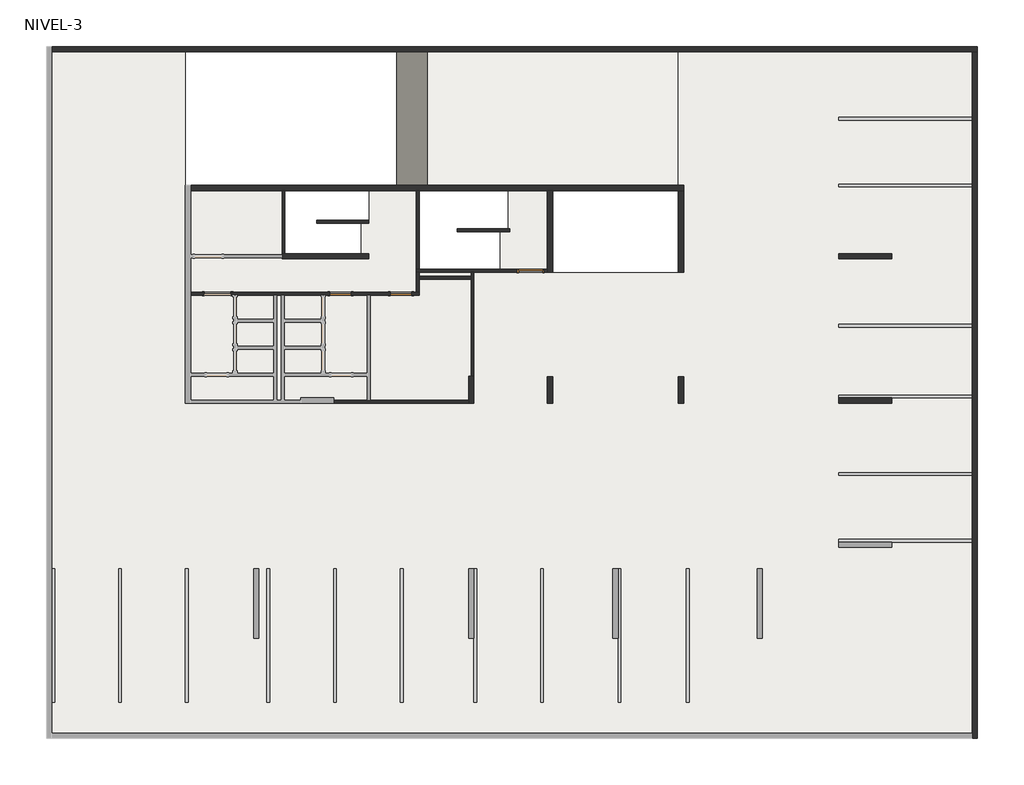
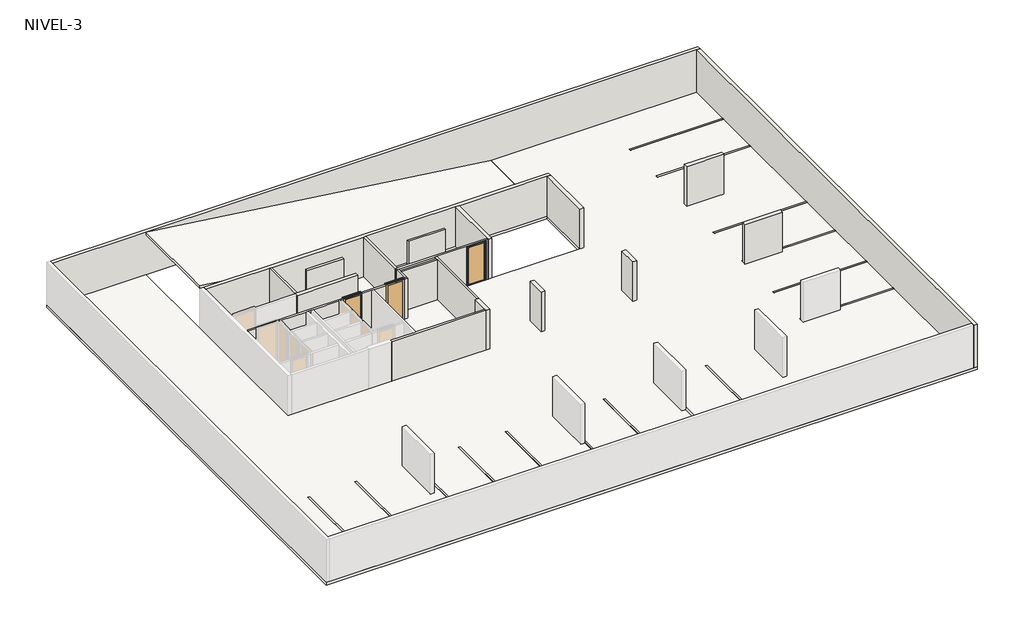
# One storey, part 2 of 2: 21 walls, 16 proxies, 3 doors, 2 slabs.
"""IFC4 building model written with IfcOpenShell, lengths in millimetres."""

from ifc_helpers import new_model, si_unit, frame, origin, place, context, project, spatial, polyline, outline, extrude, faceted_brep, transform, mapped, element, save
from components import m_plaza_de_aparcamiento_500x_240_cm_90_grados_ee1d180e, m_plaza_de_aparcamiento_500x_240_cm_90_grados_d35e9f12, door_90f4172a, m_single_flush_810x_224_a3dcca69

model = new_model("IFC4")

# Units and contexts
model_context = context("Model", 3, world=origin())
ifc_project = project(units=[si_unit("LENGTHUNIT", "METRE", prefix="MILLI")], contexts=[model_context])

# Site, building, storey
site = spatial("IfcSite", under=ifc_project)
building = spatial("IfcBuilding", under=site)
storey = spatial("IfcBuildingStorey", under=building, Name="NIVEL-3", Elevation=-9300.0)

# Proxies
placement = place(None, origin())
m_plaza_de_aparcamiento_500x_240_cm_90_grados_shape = m_plaza_de_aparcamiento_500x_240_cm_90_grados_ee1d180e(model_context)
element("IfcBuildingElementProxy", 1, Name="M_Plaza de aparcamiento : 500x 240 cm - 90 grados", ObjectType="M_Plaza de aparcamiento : 500x 240 cm - 90 grados", at=placement, inside=storey, context=model_context, shape_type="MappedRepresentation", body=[
    mapped(m_plaza_de_aparcamiento_500x_240_cm_90_grados_shape, transform((-12432.7934748, -1166.0860759, -9300.0), x_axis=(1.0, 0.0, 0.0), y_axis=(0.0, 1.0, 0.0), z_axis=(0.0, 0.0, 1.0))),
])
element("IfcBuildingElementProxy", 2, Name="M_Plaza de aparcamiento : 500x 240 cm - 90 grados", ObjectType="M_Plaza de aparcamiento : 500x 240 cm - 90 grados", at=placement, inside=storey, context=model_context, shape_type="MappedRepresentation", body=[
    mapped(m_plaza_de_aparcamiento_500x_240_cm_90_grados_shape, transform((-15183.5934748, -1166.0860759, -9300.0), x_axis=(1.0, 0.0, 0.0), y_axis=(0.0, 1.0, 0.0), z_axis=(0.0, 0.0, 1.0))),
])
element("IfcBuildingElementProxy", 3, Name="M_Plaza de aparcamiento : 500x 240 cm - 90 grados", ObjectType="M_Plaza de aparcamiento : 500x 240 cm - 90 grados", at=placement, inside=storey, context=model_context, shape_type="MappedRepresentation", body=[
    mapped(m_plaza_de_aparcamiento_500x_240_cm_90_grados_shape, transform((-17683.5934748, -1166.0860759, -9300.0), x_axis=(1.0, 0.0, 0.0), y_axis=(0.0, 1.0, 0.0), z_axis=(0.0, 0.0, 1.0))),
])
element("IfcBuildingElementProxy", 4, Name="M_Plaza de aparcamiento : 500x 240 cm - 90 grados", ObjectType="M_Plaza de aparcamiento : 500x 240 cm - 90 grados", at=placement, inside=storey, context=model_context, shape_type="MappedRepresentation", body=[
    mapped(m_plaza_de_aparcamiento_500x_240_cm_90_grados_shape, transform((-20183.5934748, -1166.0860759, -9300.0), x_axis=(1.0, 0.0, 0.0), y_axis=(0.0, 1.0, 0.0), z_axis=(0.0, 0.0, 1.0))),
])
element("IfcBuildingElementProxy", 5, Name="M_Plaza de aparcamiento : 500x 240 cm - 90 grados", ObjectType="M_Plaza de aparcamiento : 500x 240 cm - 90 grados", at=placement, inside=storey, context=model_context, shape_type="MappedRepresentation", body=[
    mapped(m_plaza_de_aparcamiento_500x_240_cm_90_grados_shape, transform((-23233.5934748, -1166.0860759, -9300.0), x_axis=(1.0, 0.0, 0.0), y_axis=(0.0, 1.0, 0.0), z_axis=(0.0, 0.0, 1.0))),
])
element("IfcBuildingElementProxy", 6, Name="M_Plaza de aparcamiento : 500x 240 cm - 90 grados", ObjectType="M_Plaza de aparcamiento : 500x 240 cm - 90 grados", at=placement, inside=storey, context=model_context, shape_type="MappedRepresentation", body=[
    mapped(m_plaza_de_aparcamiento_500x_240_cm_90_grados_shape, transform((-25733.5934748, -1166.0860759, -9300.0), x_axis=(1.0, 0.0, 0.0), y_axis=(0.0, 1.0, 0.0), z_axis=(0.0, 0.0, 1.0))),
])
element("IfcBuildingElementProxy", 7, Name="M_Plaza de aparcamiento : 500x 240 cm - 90 grados", ObjectType="M_Plaza de aparcamiento : 500x 240 cm - 90 grados", at=placement, inside=storey, context=model_context, shape_type="MappedRepresentation", body=[
    mapped(m_plaza_de_aparcamiento_500x_240_cm_90_grados_shape, transform((-28233.5934748, -1166.0860759, -9300.0), x_axis=(1.0, 0.0, 0.0), y_axis=(0.0, 1.0, 0.0), z_axis=(0.0, 0.0, 1.0))),
])
element("IfcBuildingElementProxy", 8, Name="M_Plaza de aparcamiento : 500x 240 cm - 90 grados", ObjectType="M_Plaza de aparcamiento : 500x 240 cm - 90 grados", at=placement, inside=storey, context=model_context, shape_type="MappedRepresentation", body=[
    mapped(m_plaza_de_aparcamiento_500x_240_cm_90_grados_shape, transform((-9933.587274, -1166.0860759, -9300.0), x_axis=(1.0, 0.0, 0.0), y_axis=(0.0, 1.0, 0.0), z_axis=(0.0, 0.0, 1.0))),
])
element("IfcBuildingElementProxy", 9, Name="M_Plaza de aparcamiento : 500x 240 cm - 90 grados", ObjectType="M_Plaza de aparcamiento : 500x 240 cm - 90 grados", at=placement, inside=storey, context=model_context, shape_type="MappedRepresentation", body=[
    mapped(m_plaza_de_aparcamiento_500x_240_cm_90_grados_shape, transform((-7032.7934748, -1166.0860759, -9300.0), x_axis=(1.0, 0.0, 0.0), y_axis=(0.0, 1.0, 0.0), z_axis=(0.0, 0.0, 1.0))),
])
element("IfcBuildingElementProxy", 10, Name="M_Plaza de aparcamiento : 500x 240 cm - 90 grados", ObjectType="M_Plaza de aparcamiento : 500x 240 cm - 90 grados", at=placement, inside=storey, context=model_context, shape_type="MappedRepresentation", body=[
    mapped(m_plaza_de_aparcamiento_500x_240_cm_90_grados_shape, transform((-4481.9934748, -1166.0860759, -9300.0), x_axis=(1.0, 0.0, 0.0), y_axis=(0.0, 1.0, 0.0), z_axis=(0.0, 0.0, 1.0))),
])
m_plaza_de_aparcamiento_500x_240_cm_90_grados_2_shape = m_plaza_de_aparcamiento_500x_240_cm_90_grados_d35e9f12(model_context)
element("IfcBuildingElementProxy", 11, Name="M_Plaza de aparcamiento : 500x 240 cm - 90 grados", ObjectType="M_Plaza de aparcamiento : 500x 240 cm - 90 grados", at=placement, inside=storey, context=model_context, shape_type="MappedRepresentation", body=[
    mapped(m_plaza_de_aparcamiento_500x_240_cm_90_grados_2_shape, transform((6166.4065252, 13184.7139241, -9300.0), x_axis=(0.0, 1.0, 0.0), y_axis=(-1.0, 0.0, 0.0), z_axis=(0.0, 0.0, 1.0))),
])
element("IfcBuildingElementProxy", 12, Name="M_Plaza de aparcamiento : 500x 240 cm - 90 grados", ObjectType="M_Plaza de aparcamiento : 500x 240 cm - 90 grados", at=placement, inside=storey, context=model_context, shape_type="MappedRepresentation", body=[
    mapped(m_plaza_de_aparcamiento_500x_240_cm_90_grados_2_shape, transform((6166.4065252, 15684.7139241, -9300.0), x_axis=(0.0, 1.0, 0.0), y_axis=(-1.0, 0.0, 0.0), z_axis=(0.0, 0.0, 1.0))),
])
element("IfcBuildingElementProxy", 13, Name="M_Plaza de aparcamiento : 500x 240 cm - 90 grados", ObjectType="M_Plaza de aparcamiento : 500x 240 cm - 90 grados", at=placement, inside=storey, context=model_context, shape_type="MappedRepresentation", body=[
    mapped(m_plaza_de_aparcamiento_500x_240_cm_90_grados_2_shape, transform((6166.4065252, 7933.9139241, -9300.0), x_axis=(0.0, 1.0, 0.0), y_axis=(-1.0, 0.0, 0.0), z_axis=(0.0, 0.0, 1.0))),
])
element("IfcBuildingElementProxy", 14, Name="M_Plaza de aparcamiento : 500x 240 cm - 90 grados", ObjectType="M_Plaza de aparcamiento : 500x 240 cm - 90 grados", at=placement, inside=storey, context=model_context, shape_type="MappedRepresentation", body=[
    mapped(m_plaza_de_aparcamiento_500x_240_cm_90_grados_2_shape, transform((6166.4065252, 5284.7139241, -9300.0), x_axis=(0.0, 1.0, 0.0), y_axis=(-1.0, 0.0, 0.0), z_axis=(0.0, 0.0, 1.0))),
])
element("IfcBuildingElementProxy", 15, Name="M_Plaza de aparcamiento : 500x 240 cm - 90 grados", ObjectType="M_Plaza de aparcamiento : 500x 240 cm - 90 grados", at=placement, inside=storey, context=model_context, shape_type="MappedRepresentation", body=[
    mapped(m_plaza_de_aparcamiento_500x_240_cm_90_grados_2_shape, transform((6166.4065252, 2384.7139241, -9300.0), x_axis=(0.0, 1.0, 0.0), y_axis=(-1.0, 0.0, 0.0), z_axis=(0.0, 0.0, 1.0))),
])
element("IfcBuildingElementProxy", 16, Name="M_Plaza de aparcamiento : 500x 240 cm - 90 grados", ObjectType="M_Plaza de aparcamiento : 500x 240 cm - 90 grados", at=placement, inside=storey, context=model_context, shape_type="MappedRepresentation", body=[
    mapped(m_plaza_de_aparcamiento_500x_240_cm_90_grados_2_shape, transform((6166.4065252, -115.2860759, -9300.0), x_axis=(0.0, 1.0, 0.0), y_axis=(-1.0, 0.0, 0.0), z_axis=(0.0, 0.0, 1.0))),
])

# Doors
door_shape = door_90f4172a(model_context)
element("IfcDoor", 17, ObjectType="PUERTA SEGURIDAD SIMPLE : P600_A(90*220) RF120", at=placement, inside=storey, context=model_context, shape_type="MappedRepresentation", body=[
    mapped(door_shape, transform((-10358.5934748, 9988.9139241, -9300.0), x_axis=(1.0, 0.0, 0.0), y_axis=(0.0, 1.0, 0.0), z_axis=(0.0, 0.0, 1.0))),
])
m_single_flush_810x_224_shape = m_single_flush_810x_224_a3dcca69(model_context)
element("IfcDoor", 18, ObjectType="M_Single-Flush : 810x 224", at=placement, inside=storey, context=model_context, shape_type="MappedRepresentation", body=[
    mapped(m_single_flush_810x_224_shape, transform((-17479.3934748, 9128.9139241, -9300.0), x_axis=(-1.0, 0.0, 0.0), y_axis=(0.0, -1.0, 0.0), z_axis=(0.0, 0.0, 1.0))),
])
element("IfcDoor", 19, ObjectType="M_Single-Flush : 810x 224", at=placement, inside=storey, context=model_context, shape_type="MappedRepresentation", body=[
    mapped(m_single_flush_810x_224_shape, transform((-15209.3934748, 9128.9139241, -9300.0), x_axis=(-1.0, 0.0, 0.0), y_axis=(0.0, -1.0, 0.0), z_axis=(0.0, 0.0, 1.0))),
])

# Slabs
element("IfcSlab", 20, ObjectType="LOSA-150mm", at=placement, inside=storey, context=model_context, shape_type="SweptSolid", body=[
    extrude(outline(polyline([(-28484.3934748, 18384.7139241), (-23284.3934748, 18384.7139241), (-23284.3934748, 13184.7139241), (-4833.5934748, 13184.7139241), (-4833.5934748, 18384.7139241), (6366.4065252, 18384.7139241), (6366.4065252, -7516.0860759), (-28484.3934748, -7516.0860759), (-28484.3934748, 18384.7139241)]), holes=[polyline([(-19558.5934748, 12984.7139241), (-19558.5934748, 10633.9139241), (-16716.3934748, 10633.9139241), (-16716.3934748, 11766.6139241), (-16415.8934748, 11766.6139241), (-16415.8934748, 12984.7139241), (-19558.5934748, 12984.7139241)]), polyline([(-14524.3934748, 12984.7139241), (-14524.3934748, 10043.9139241), (-11524.4934748, 10043.9139241), (-11524.4934748, 11459.3139241), (-11223.9934748, 11459.3139241), (-11223.9934748, 12984.7139241), (-14524.3934748, 12984.7139241)]), polyline([(-4833.5934748, 12984.7139241), (-9533.5934748, 12984.7139241), (-9533.5934748, 9933.9139241), (-4833.5934748, 9933.9139241), (-4833.5934748, 12984.7139241)])]), frame((0.0, 0.0, -9470.0), z_axis=(0.0, 0.0, 1.0), x_axis=(1.0, 0.0, 0.0)), (0.0, 0.0, 1.0), 150.0),
])
element("IfcSlab", 21, ObjectType="LOSA-150mm", at=placement, inside=storey, context=model_context, shape_type="SweptSolid", body=[
    extrude(outline(polyline([(-7071.2636531, -23284.3934748), (-9471.2636531, -4833.5934748), (-9320.0, -4833.5934748), (-6920.0, -23284.3934748), (-7071.2636531, -23284.3934748)])), frame((0.0, 13184.7139241, 0.0), z_axis=(0.0, 1.0, 0.0), x_axis=(0.0, 0.0, 1.0)), (0.0, 0.0, 1.0), 5000.0),
])

# Walls
element("IfcWall", 22, ObjectType="SCV.TI.A.110.120.141.44.1", at=placement, inside=storey, context=model_context, shape_type="SweptSolid", body=[
    extrude(outline(polyline([(-14634.3934748, 10043.9139241), (-14634.3934748, 12984.7139241), (-14524.3934748, 12984.7139241), (-14524.3934748, 10043.9139241), (-14634.3934748, 10043.9139241)])), frame((0.0, 0.0, -9320.0), z_axis=(0.0, 0.0, 1.0), x_axis=(1.0, 0.0, 0.0)), (0.0, 0.0, 1.0), 2250.0),
])
element("IfcWall", 23, ObjectType="SCV.TI.A.110.120.141.44.1", at=placement, inside=storey, context=model_context, shape_type="Brep", body=[
    faceted_brep([(-14634.3934748, 9933.9139241, -9320.0), (-14524.3934748, 9933.9139241, -9320.0), (-12593.5934748, 9933.9139241, -9320.0), (-12483.5934748, 9933.9139241, -9320.0), (-9733.5934748, 9933.9139241, -9320.0), (-9733.5934748, 9933.9139241, -7070.0), (-12483.5934748, 9933.9139241, -7070.0), (-12593.5934748, 9933.9139241, -7070.0), (-14524.3934748, 9933.9139241, -7070.0), (-14634.3934748, 9933.9139241, -7070.0), (-9843.5934748, 9933.9139241, -9300.0), (-10873.5934748, 9933.9139241, -9300.0), (-10873.5934748, 9933.9139241, -7100.0), (-9843.5934748, 9933.9139241, -7100.0), (-14634.3934748, 10043.9139241, -9320.0), (-14634.3934748, 10043.9139241, -7070.0), (-14524.3934748, 10043.9139241, -7070.0), (-9733.5934748, 10043.9139241, -7070.0), (-9733.5934748, 10043.9139241, -9320.0), (-14524.3934748, 10043.9139241, -9320.0), (-9843.5934748, 10043.9139241, -9300.0), (-9843.5934748, 10043.9139241, -7100.0), (-10873.5934748, 10043.9139241, -7100.0), (-10873.5934748, 10043.9139241, -9300.0)], [[[0, 1, 2, 3, 4, 5, 6, 7, 8, 9], [10, 11, 12, 13]], [[14, 15, 16, 17, 18, 19], [20, 21, 22, 23]], [[4, 3, 2, 1, 0, 14, 19, 18]], [[9, 8, 7, 6, 5, 17, 16, 15]], [[5, 4, 18, 17]], [[0, 9, 15, 14]], [[21, 20, 10, 13]], [[22, 21, 13, 12]], [[23, 22, 12, 11]], [[20, 23, 11, 10]]]),
])
element("IfcWall", 24, ObjectType="SCV.TI.A.110.090.143.47.1", at=placement, inside=storey, context=model_context, shape_type="Brep", body=[
    faceted_brep([(-14524.3934748, 9183.9139241, -9320.0), (-14634.3934748, 9183.9139241, -9320.0), (-23084.3934748, 9183.9139241, -9320.0), (-23084.3934748, 9183.9139241, -7070.0), (-14634.3934748, 9183.9139241, -7070.0), (-14524.3934748, 9183.9139241, -7070.0), (-22579.3934748, 9183.9139241, -9300.0), (-21579.3934748, 9183.9139241, -9300.0), (-21579.3934748, 9183.9139241, -7100.0), (-22579.3934748, 9183.9139241, -7100.0), (-17884.3934748, 9183.9139241, -9300.0), (-17074.3934748, 9183.9139241, -9300.0), (-17074.3934748, 9183.9139241, -7100.0), (-17884.3934748, 9183.9139241, -7100.0), (-15614.3934748, 9183.9139241, -9300.0), (-14804.3934748, 9183.9139241, -9300.0), (-14804.3934748, 9183.9139241, -7100.0), (-15614.3934748, 9183.9139241, -7100.0), (-23084.3934748, 9073.9139241, -9320.0), (-21484.3934748, 9073.9139241, -9320.0), (-21374.3934748, 9073.9139241, -9320.0), (-19969.3934748, 9073.9139241, -9320.0), (-19859.3934748, 9073.9139241, -9320.0), (-19699.3934748, 9073.9139241, -9320.0), (-19589.3934748, 9073.9139241, -9320.0), (-18184.3934748, 9073.9139241, -9320.0), (-18074.3934748, 9073.9139241, -9320.0), (-16474.3934748, 9073.9139241, -9320.0), (-16364.3934748, 9073.9139241, -9320.0), (-14524.3934748, 9073.9139241, -9320.0), (-14524.3934748, 9073.9139241, -7070.0), (-16364.3934748, 9073.9139241, -7070.0), (-16474.3934748, 9073.9139241, -7070.0), (-18074.3934748, 9073.9139241, -7070.0), (-18184.3934748, 9073.9139241, -7070.0), (-19589.3934748, 9073.9139241, -7070.0), (-19699.3934748, 9073.9139241, -7070.0), (-19859.3934748, 9073.9139241, -7070.0), (-19969.3934748, 9073.9139241, -7070.0), (-21374.3934748, 9073.9139241, -7070.0), (-21484.3934748, 9073.9139241, -7070.0), (-23084.3934748, 9073.9139241, -7070.0), (-21579.3934748, 9073.9139241, -9300.0), (-22579.3934748, 9073.9139241, -9300.0), (-22579.3934748, 9073.9139241, -7100.0), (-21579.3934748, 9073.9139241, -7100.0), (-17074.3934748, 9073.9139241, -9300.0), (-17884.3934748, 9073.9139241, -9300.0), (-17884.3934748, 9073.9139241, -7100.0), (-17074.3934748, 9073.9139241, -7100.0), (-14804.3934748, 9073.9139241, -9300.0), (-15614.3934748, 9073.9139241, -9300.0), (-15614.3934748, 9073.9139241, -7100.0), (-14804.3934748, 9073.9139241, -7100.0)], [[[0, 1, 2, 3, 4, 5], [6, 7, 8, 9], [10, 11, 12, 13], [14, 15, 16, 17]], [[18, 19, 20, 21, 22, 23, 24, 25, 26, 27, 28, 29, 30, 31, 32, 33, 34, 35, 36, 37, 38, 39, 40, 41], [42, 43, 44, 45], [46, 47, 48, 49], [50, 51, 52, 53]], [[2, 1, 0, 29, 28, 27, 26, 25, 24, 23, 22, 21, 20, 19, 18]], [[5, 4, 3, 41, 40, 39, 38, 37, 36, 35, 34, 33, 32, 31, 30]], [[3, 2, 18, 41]], [[6, 43, 42, 7]], [[7, 42, 45, 8]], [[8, 45, 44, 9]], [[43, 6, 9, 44]], [[47, 46, 11, 10]], [[48, 47, 10, 13]], [[49, 48, 13, 12]], [[46, 49, 12, 11]], [[51, 50, 15, 14]], [[52, 51, 14, 17]], [[53, 52, 17, 16]], [[50, 53, 16, 15]], [[0, 5, 30, 29]]]),
])
element("IfcWall", 25, ObjectType="SCV.TI.A.110.090.143.47.1", at=placement, inside=storey, context=model_context, shape_type="Brep", body=[
    faceted_brep([(-12593.5934748, 9933.9139241, -9320.0), (-12593.5934748, 9783.9139241, -9320.0), (-12593.5934748, 9673.9139241, -9320.0), (-12593.5934748, 6033.9139241, -9320.0), (-12593.5934748, 6033.9139241, -7070.0), (-12593.5934748, 9673.9139241, -7070.0), (-12593.5934748, 9783.9139241, -7070.0), (-12593.5934748, 9933.9139241, -7070.0), (-12483.5934748, 9933.9139241, -9320.0), (-12483.5934748, 9933.9139241, -7070.0), (-12483.5934748, 6033.9139241, -7070.0), (-12483.5934748, 6033.9139241, -9320.0)], [[[0, 1, 2, 3, 4, 5, 6, 7]], [[8, 9, 10, 11]], [[3, 2, 1, 0, 8, 11]], [[4, 3, 11, 10]], [[7, 6, 5, 4, 10, 9]], [[0, 7, 9, 8]]]),
])
element("IfcWall", 26, ObjectType="SCV.TI.A.110.090.143.47.1", at=placement, inside=storey, context=model_context, shape_type="Brep", body=[
    faceted_brep([(-12683.5934748, 5143.9139241, -9320.0), (-16364.3934748, 5143.9139241, -9320.0), (-16474.3934748, 5143.9139241, -9320.0), (-17733.587274, 5143.9139241, -9320.0), (-17733.587274, 5143.9139241, -7070.0), (-16474.3934748, 5143.9139241, -7070.0), (-16364.3934748, 5143.9139241, -7070.0), (-12683.5934748, 5143.9139241, -7070.0), (-12683.5934748, 5033.9139241, -9320.0), (-12683.5934748, 5033.9139241, -7070.0), (-17733.587274, 5033.9139241, -7070.0), (-17733.587274, 5033.9139241, -9320.0)], [[[0, 1, 2, 3, 4, 5, 6, 7]], [[8, 9, 10, 11]], [[3, 2, 1, 0, 8, 11]], [[4, 3, 11, 10]], [[7, 6, 5, 4, 10, 9]], [[0, 7, 9, 8]]]),
])
element("IfcWall", 27, ObjectType="SCV.TI.A.110.090.143.47.1", at=placement, inside=storey, context=model_context, shape_type="SweptSolid", body=[
    extrude(outline(polyline([(-12593.5934748, 9673.9139241), (-14524.3934748, 9673.9139241), (-14524.3934748, 9783.9139241), (-12593.5934748, 9783.9139241), (-12593.5934748, 9673.9139241)])), frame((0.0, 0.0, -9320.0), z_axis=(0.0, 0.0, 1.0), x_axis=(1.0, 0.0, 0.0)), (0.0, 0.0, 1.0), 2250.0),
])
element("IfcWall", 28, ObjectType="SCV.TI.A.110.090.143.47.1", at=placement, inside=storey, context=model_context, shape_type="SweptSolid", body=[
    extrude(outline(polyline([(-19668.5934748, 10633.9139241), (-19668.5934748, 12984.7139241), (-19558.5934748, 12984.7139241), (-19558.5934748, 10633.9139241), (-19668.5934748, 10633.9139241)])), frame((0.0, 0.0, -9320.0), z_axis=(0.0, 0.0, 1.0), x_axis=(1.0, 0.0, 0.0)), (0.0, 0.0, 1.0), 2250.0),
])
element("IfcWall", 29, ObjectType="SCV.TI.A.110.090.143.47.1", at=placement, inside=storey, context=model_context, shape_type="SweptSolid", body=[
    extrude(outline(polyline([(-16415.8934748, 11766.6139241), (-18375.8934748, 11766.6139241), (-18375.8934748, 11876.6139241), (-16415.8934748, 11876.6139241), (-16415.8934748, 11766.6139241)])), frame((0.0, 0.0, -9320.0), z_axis=(0.0, 0.0, 1.0), x_axis=(1.0, 0.0, 0.0)), (0.0, 0.0, 1.0), 2400.0),
])
element("IfcWall", 30, ObjectType="SCV.TI.A.110.090.143.47.1", at=placement, inside=storey, context=model_context, shape_type="Brep", body=[
    faceted_brep([(-14634.3934748, 9933.9139241, -9320.0), (-14634.3934748, 9183.9139241, -9320.0), (-14634.3934748, 9183.9139241, -7070.0), (-14634.3934748, 9933.9139241, -7070.0), (-14524.3934748, 9933.9139241, -9320.0), (-14524.3934748, 9933.9139241, -7070.0), (-14524.3934748, 9783.9139241, -7070.0), (-14524.3934748, 9673.9139241, -7070.0), (-14524.3934748, 9183.9139241, -7070.0), (-14524.3934748, 9183.9139241, -9320.0), (-14524.3934748, 9673.9139241, -9320.0), (-14524.3934748, 9783.9139241, -9320.0)], [[[0, 1, 2, 3]], [[4, 5, 6, 7, 8, 9, 10, 11]], [[1, 0, 4, 11, 10, 9]], [[3, 2, 8, 7, 6, 5]], [[0, 3, 5, 4]], [[2, 1, 9, 8]]]),
])
element("IfcWall", 31, ObjectType="SCV.TI.A.110.090.143.47.1", at=placement, inside=storey, context=model_context, shape_type="SweptSolid", body=[
    extrude(outline(polyline([(-11148.9934748, 11459.3139241), (-13108.9934748, 11459.3139241), (-13108.9934748, 11569.3139241), (-11148.9934748, 11569.3139241), (-11148.9934748, 11459.3139241)])), frame((0.0, 0.0, -9320.0), z_axis=(0.0, 0.0, 1.0), x_axis=(1.0, 0.0, 0.0)), (0.0, 0.0, 1.0), 2400.0),
])
element("IfcWall", 32, ObjectType="HA-200mm", at=placement, inside=storey, context=model_context, shape_type="Brep", body=[
    faceted_brep([(-28284.3934748, 18184.7139241, -9320.0), (6166.4065252, 18184.7139241, -9320.0), (6366.4065252, 18184.7139241, -9320.0), (6366.4065252, 18184.7139241, -6920.0), (6166.4065252, 18184.7139241, -6920.0), (-28284.3934748, 18184.7139241, -6920.0), (-28284.3934748, 18384.7139241, -9320.0), (-28284.3934748, 18384.7139241, -6920.0), (6366.4065252, 18384.7139241, -6920.0), (6366.4065252, 18384.7139241, -9320.0)], [[[0, 1, 2, 3, 4, 5]], [[6, 7, 8, 9]], [[2, 1, 0, 6, 9]], [[5, 4, 3, 8, 7]], [[0, 5, 7, 6]], [[3, 2, 9, 8]]]),
])
element("IfcWall", 33, ObjectType="HA-200mm", at=placement, inside=storey, context=model_context, shape_type="Brep", body=[
    faceted_brep([(6166.4065252, 18184.7139241, -9320.0), (6166.4065252, -7316.0860759, -9320.0), (6166.4065252, -7516.0860759, -9320.0), (6166.4065252, -7516.0860759, -6920.0), (6166.4065252, -7316.0860759, -6920.0), (6166.4065252, 18184.7139241, -6920.0), (6366.4065252, 18184.7139241, -9320.0), (6366.4065252, 18184.7139241, -6920.0), (6366.4065252, -7516.0860759, -6920.0), (6366.4065252, -7516.0860759, -9320.0)], [[[0, 1, 2, 3, 4, 5]], [[6, 7, 8, 9]], [[2, 1, 0, 6, 9]], [[5, 4, 3, 8, 7]], [[0, 5, 7, 6]], [[3, 2, 9, 8]]]),
])
element("IfcWall", 34, ObjectType="HA-200mm", at=placement, inside=storey, context=model_context, shape_type="Brep", body=[
    faceted_brep([(-23084.3934748, 12984.7139241, -9320.0), (-19668.5934748, 12984.7139241, -9320.0), (-19558.5934748, 12984.7139241, -9320.0), (-14634.3934748, 12984.7139241, -9320.0), (-14524.3934748, 12984.7139241, -9320.0), (-9733.5934748, 12984.7139241, -9320.0), (-9533.5934748, 12984.7139241, -9320.0), (-4833.5934748, 12984.7139241, -9320.0), (-4633.5934748, 12984.7139241, -9320.0), (-4633.5934748, 12984.7139241, -7070.0), (-4833.5934748, 12984.7139241, -7070.0), (-9533.5934748, 12984.7139241, -7070.0), (-9733.5934748, 12984.7139241, -7070.0), (-14524.3934748, 12984.7139241, -7070.0), (-14634.3934748, 12984.7139241, -7070.0), (-19558.5934748, 12984.7139241, -7070.0), (-19668.5934748, 12984.7139241, -7070.0), (-23084.3934748, 12984.7139241, -7070.0), (-23084.3934748, 13184.7139241, -9320.0), (-23084.3934748, 13184.7139241, -7070.0), (-4633.5934748, 13184.7139241, -7070.0), (-4633.5934748, 13184.7139241, -9320.0)], [[[0, 1, 2, 3, 4, 5, 6, 7, 8, 9, 10, 11, 12, 13, 14, 15, 16, 17]], [[18, 19, 20, 21]], [[8, 7, 6, 5, 4, 3, 2, 1, 0, 18, 21]], [[17, 16, 15, 14, 13, 12, 11, 10, 9, 20, 19]], [[0, 17, 19, 18]], [[9, 8, 21, 20]]]),
])
element("IfcWall", 35, ObjectType="HA-200mm", at=placement, inside=storey, context=model_context, shape_type="SweptSolid", body=[
    extrude(outline(polyline([(-4833.5934748, 9933.9139241), (-4833.5934748, 12984.7139241), (-4633.5934748, 12984.7139241), (-4633.5934748, 9933.9139241), (-4833.5934748, 9933.9139241)])), frame((0.0, 0.0, -9320.0), z_axis=(0.0, 0.0, 1.0), x_axis=(1.0, 0.0, 0.0)), (0.0, 0.0, 1.0), 2250.0),
])
element("IfcWall", 36, ObjectType="HA-200mm", at=placement, inside=storey, context=model_context, shape_type="Brep", body=[
    faceted_brep([(-9733.5934748, 12984.7139241, -9320.0), (-9733.5934748, 10043.9139241, -9320.0), (-9733.5934748, 9933.9139241, -9320.0), (-9733.5934748, 9933.9139241, -7070.0), (-9733.5934748, 10043.9139241, -7070.0), (-9733.5934748, 12984.7139241, -7070.0), (-9533.5934748, 12984.7139241, -9320.0), (-9533.5934748, 12984.7139241, -7070.0), (-9533.5934748, 9933.9139241, -7070.0), (-9533.5934748, 9933.9139241, -9320.0)], [[[0, 1, 2, 3, 4, 5]], [[6, 7, 8, 9]], [[2, 1, 0, 6, 9]], [[5, 4, 3, 8, 7]], [[0, 5, 7, 6]], [[3, 2, 9, 8]]]),
])
element("IfcWall", 37, ObjectType="HA-200mm", at=placement, inside=storey, context=model_context, shape_type="SweptSolid", body=[
    extrude(outline(polyline([(3166.4065252, 5033.9139241), (1166.4065252, 5033.9139241), (1166.4065252, 5233.9139241), (3166.4065252, 5233.9139241), (3166.4065252, 5033.9139241)])), frame((0.0, 0.0, -9320.0), z_axis=(0.0, 0.0, 1.0), x_axis=(1.0, 0.0, 0.0)), (0.0, 0.0, 1.0), 2250.0),
])
element("IfcWall", 38, ObjectType="HA-200mm", at=placement, inside=storey, context=model_context, shape_type="SweptSolid", body=[
    extrude(outline(polyline([(3166.4065252, 10433.9139241), (1166.4065252, 10433.9139241), (1166.4065252, 10633.9139241), (3166.4065252, 10633.9139241), (3166.4065252, 10433.9139241)])), frame((0.0, 0.0, -9320.0), z_axis=(0.0, 0.0, 1.0), x_axis=(1.0, 0.0, 0.0)), (0.0, 0.0, 1.0), 2250.0),
])
element("IfcWall", 39, ObjectType="HA-200mm", at=placement, inside=storey, context=model_context, shape_type="SweptSolid", body=[
    extrude(outline(polyline([(-4833.5934748, 5024.0265595), (-4833.5934748, 6024.0265595), (-4633.5934748, 6024.0265595), (-4633.5934748, 5024.0265595), (-4833.5934748, 5024.0265595)])), frame((0.0, 0.0, -9320.0), z_axis=(0.0, 0.0, 1.0), x_axis=(1.0, 0.0, 0.0)), (0.0, 0.0, 1.0), 2250.0),
])
element("IfcWall", 40, ObjectType="HA-200mm", at=placement, inside=storey, context=model_context, shape_type="Brep", body=[
    faceted_brep([(-12683.5934748, 6033.9139241, -9320.0), (-12683.5934748, 5143.9139241, -9320.0), (-12683.5934748, 5033.9139241, -9320.0), (-12683.5934748, 5033.9139241, -7070.0), (-12683.5934748, 5143.9139241, -7070.0), (-12683.5934748, 6033.9139241, -7070.0), (-12483.5934748, 6033.9139241, -9320.0), (-12483.5934748, 6033.9139241, -7070.0), (-12483.5934748, 5033.9139241, -7070.0), (-12483.5934748, 5033.9139241, -9320.0), (-12593.5934748, 6033.9139241, -9320.0), (-12593.5934748, 6033.9139241, -7070.0)], [[[0, 1, 2, 3, 4, 5]], [[6, 7, 8, 9]], [[2, 1, 0, 10, 6, 9]], [[5, 4, 3, 8, 7, 11]], [[0, 5, 11, 7, 6, 10]], [[3, 2, 9, 8]]]),
])
element("IfcWall", 41, ObjectType="HA-200mm", at=placement, inside=storey, context=model_context, shape_type="Brep", body=[
    faceted_brep([(-19668.5934748, 10433.9139241, -9320.0), (-16415.8934748, 10433.9139241, -9320.0), (-16415.8934748, 10433.9139241, -7070.0), (-19668.5934748, 10433.9139241, -7070.0), (-19668.5934748, 10633.9139241, -9320.0), (-19668.5934748, 10633.9139241, -7070.0), (-19558.5934748, 10633.9139241, -7070.0), (-16415.8934748, 10633.9139241, -7070.0), (-16415.8934748, 10633.9139241, -9320.0), (-19558.5934748, 10633.9139241, -9320.0), (-19668.5934748, 10478.9139241, -9320.0), (-19668.5934748, 10588.9139241, -9320.0), (-19668.5934748, 10588.9139241, -7070.0), (-19668.5934748, 10478.9139241, -7070.0)], [[[0, 1, 2, 3]], [[4, 5, 6, 7, 8, 9]], [[1, 0, 10, 11, 4, 9, 8]], [[2, 1, 8, 7]], [[3, 2, 7, 6, 5, 12, 13]], [[0, 3, 13, 12, 5, 4, 11, 10]]]),
])
element("IfcWall", 42, ObjectType="HA-200mm", at=placement, inside=storey, context=model_context, shape_type="SweptSolid", body=[
    extrude(outline(polyline([(-9733.5934748, 5024.0265595), (-9733.5934748, 6024.0265595), (-9533.5934748, 6024.0265595), (-9533.5934748, 5024.0265595), (-9733.5934748, 5024.0265595)])), frame((0.0, 0.0, -9320.0), z_axis=(0.0, 0.0, 1.0), x_axis=(1.0, 0.0, 0.0)), (0.0, 0.0, 1.0), 2250.0),
])

save(model, "model.ifc")
